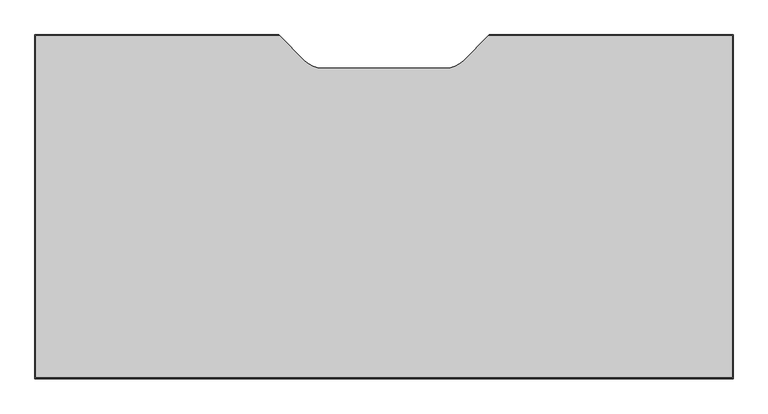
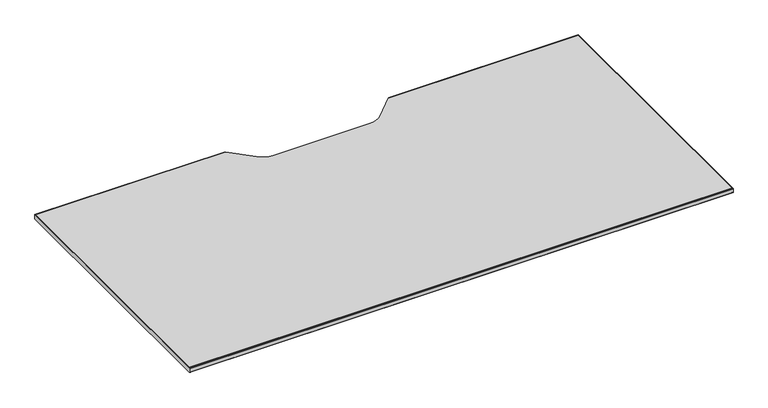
"""IFC4 building model written with IfcOpenShell, lengths in millimetres: furniture geometry, Steelcase Turnstone - Bivi - Table - Table Top : 30D x 60W."""

from ifc_helpers import new_model, si_unit, point, frame, frame_2d, origin, place, context, project, spatial, polyline, circle_curve, trimmed, segment, composite_curve, outline, extrude, source, transform, mapped, element, save
from ifc_brep_helpers import plane_surface, cylinder_surface, advanced_brep


def furniture_3df5f018(model_context):
    return source(origin(), model_context, "Body", "SolidModel", [
        advanced_brep(
        [(514.3499939, 727.0750061, 723.566625), (515.3499939, 726.0750061, 723.566625), (515.3499939, 726.0750061, 710.485625), (514.3499939, 727.0750061, 710.485625), (957.8500067, 726.0750061, 723.566625), (958.8500061, 727.0750061, 723.566625), (958.8500061, 727.0750061, 710.485625), (957.8500067, 726.0750061, 710.485625), (1473.2, 727.0750061, 723.566625), (1472.2, 726.0750061, 723.566625), (1472.2, 3.0000061, 723.566625), (1.0, 3.0000061, 723.566625), (1.0, 726.0750061, 723.566625), (0.0, 727.0750061, 723.566625), (0.0, 2.0320061, 723.566625), (1473.2, 2.0320061, 723.566625), (1472.2, 726.0750061, 710.485625), (1472.2, 3.0000061, 710.485625), (1473.2, 727.0750061, 710.485625), (1473.2, 2.0320061, 710.485625), (0.0, 2.0320061, 710.485625), (0.0, 727.0750061, 710.485625), (1.0, 726.0750061, 710.485625), (1.0, 3.0000061, 710.485625), (1473.2, 6.1e-06, 721.534625), (1473.2, 6.1e-06, 712.517625), (0.0, 6.1e-06, 712.517625), (0.0, 6.1e-06, 721.534625)],
        [
            (0, 1),
            (1, 2),
            (2, 3),
            (3, 0),
            (4, 5),
            (5, 6),
            (6, 7),
            (7, 4),
            (8, 5),
            (4, 9),
            (9, 10),
            (10, 11),
            (11, 12),
            (12, 1),
            (0, 13),
            (13, 14),
            (14, 15),
            (15, 8),
            (9, 16),
            (16, 17),
            (17, 10),
            (16, 7),
            (6, 18),
            (18, 19),
            (19, 20),
            (20, 21),
            (21, 3),
            (2, 22),
            (22, 23),
            (23, 17),
            (15, 24, circle_curve(frame((1473.2, 2.0320061, 721.534625), z_axis=(1.0, 0.0, 0.0), x_axis=(0.0, 1.0, 0.0)), 2.032)),
            (24, 25),
            (25, 19, circle_curve(frame((1473.2, 2.0320061, 712.517625), z_axis=(1.0, 0.0, 0.0), x_axis=(0.0, 1.0, 0.0)), 2.032)),
            (18, 8),
            (12, 22),
            (21, 13),
            (11, 23),
            (20, 26, circle_curve(frame((0.0, 2.0320061, 712.517625), z_axis=(-1.0, 0.0, 0.0), x_axis=(0.0, 1.0, 0.0)), 2.032)),
            (26, 27),
            (27, 14, circle_curve(frame((0.0, 2.0320061, 721.534625), z_axis=(-1.0, 0.0, 0.0), x_axis=(0.0, 1.0, 0.0)), 2.032)),
            (25, 26),
            (24, 27),
        ],
        [
            plane_surface(frame((514.3499939, 727.0750061, 724.4389999), z_axis=(0.7071067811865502, 0.7071067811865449, 0.0), x_axis=(0.0, 0.0, -1.0))),
            plane_surface(frame((904.6973766, 672.9223408, 724.4389999), z_axis=(-0.7071070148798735, 0.7071065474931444, 0.0), x_axis=(0.0, 0.0, -1.0))),
            plane_surface(frame((1473.2, 3.0000061, 723.566625), z_axis=(0.0, 0.0, 1.0), x_axis=(0.0, 1.0, 0.0))),
            plane_surface(frame((1472.2, 3.0000061, 723.566625), z_axis=(-1.0, 0.0, 0.0), x_axis=(0.0, 1.0, 0.0))),
            plane_surface(frame((1472.2, 3.0000061, 710.485625), z_axis=(0.0, 0.0, -1.0), x_axis=(0.0, 1.0, 0.0))),
            plane_surface(frame((1473.2, 3.0000061, 710.485625), z_axis=(1.0, 0.0, 0.0), x_axis=(0.0, 1.0, 0.0))),
            plane_surface(frame((1472.2, 726.0750061, 723.566625), z_axis=(0.0, -1.0, 0.0), x_axis=(-1.0, 0.0, 0.0))),
            plane_surface(frame((1473.2, 727.0750061, 710.485625), z_axis=(0.0, 1.0, 0.0), x_axis=(-1.0, 0.0, 0.0))),
            plane_surface(frame((1.0, 726.0750061, 723.566625), z_axis=(1.0, 0.0, 0.0), x_axis=(0.0, -1.0, 0.0))),
            plane_surface(frame((0.0, 727.0750061, 710.485625), z_axis=(-1.0, 0.0, 0.0), x_axis=(0.0, -1.0, 0.0))),
            cylinder_surface(frame((0.0, 2.0320061, 712.517625), z_axis=(-1.0, 0.0, 0.0), x_axis=(0.0, 1.0, 0.0)), 2.032),
            plane_surface(frame((0.0, 6.1e-06, 712.517625), z_axis=(0.0, -1.0, 0.0), x_axis=(1.0, 0.0, 0.0))),
            cylinder_surface(frame((0.0, 2.0320061, 721.534625), z_axis=(-1.0, 0.0, 0.0), x_axis=(0.0, 1.0, 0.0)), 2.032),
            plane_surface(frame((0.0, 3.0000061, 723.566625), z_axis=(0.0, 1.0, 0.0), x_axis=(1.0, 0.0, 0.0))),
        ],
        [
            (0, [[1, 2, 3, 4]]),
            (1, [[5, 6, 7, 8]]),
            (2, [[9, -5, 10, 11, 12, 13, 14, -1, 15, 16, 17, 18]]),
            (3, [[-11, 19, 20, 21]]),
            (4, [[-20, 22, -7, 23, 24, 25, 26, 27, -3, 28, 29, 30]]),
            (5, [[-18, 31, 32, 33, -24, 34]]),
            (6, [[-19, -10, -8, -22]]),
            (6, [[35, -28, -2, -14]]),
            (7, [[-34, -23, -6, -9]]),
            (7, [[36, -15, -4, -27]]),
            (8, [[-13, 37, -29, -35]]),
            (9, [[-16, -36, -26, 38, 39, 40]]),
            (10, [[-38, -25, -33, 41]]),
            (11, [[-39, -41, -32, 42]]),
            (12, [[-40, -42, -31, -17]]),
            (13, [[-30, -37, -12, -21]]),
        ],
    ),
        extrude(outline(composite_curve([segment(polyline([(1472.2, 726.0750061), (1472.2, 3.0000061), (1.0, 3.0000061), (1.0, 726.0750061), (515.3499939, 726.0750061), (568.512149, 672.912851)]), True, "CONTINUOUS"), segment(trimmed(circle_curve(frame_2d((606.3859497, 710.7866517)), 53.5616426), [point((568.512149, 672.912851))], [point((606.3859497, 657.2250091))], True, "CARTESIAN"), True, "CONTINUOUS"), segment(polyline([(606.3859497, 657.2250091), (866.8006832, 657.2250091)]), True, "CONTINUOUS"), segment(trimmed(circle_curve(frame_2d((866.8006832, 710.8190091)), 53.594), [point((866.8006832, 657.2250091))], [point((904.6973766, 672.9223408))], True, "CARTESIAN"), True, "CONTINUOUS"), segment(polyline([(904.6973766, 672.9223408), (957.8500067, 726.0750061), (1472.2, 726.0750061)]), True, "CONTINUOUS")], self_intersect=False)), frame((0.0, 0.0, 710.485625), z_axis=(0.0, 0.0, 1.0), x_axis=(1.0, 0.0, 0.0)), (0.0, 0.0, 1.0), 13.081),
    ])


if __name__ == "__main__":
    model = new_model("IFC4")
    model_context = context("Model", 3, world=origin())
    ifc_project = project(units=[si_unit("LENGTHUNIT", "METRE", prefix="MILLI")], contexts=[model_context])
    site = spatial("IfcSite", under=ifc_project)
    building = spatial("IfcBuilding", under=site)
    placement = place(None, origin())
    furniture_shape = furniture_3df5f018(model_context)
    element("IfcFurniture", 1, ObjectType="Steelcase Turnstone - Bivi - Table - Table Top : 30D x 60W", at=placement, inside=building, context=model_context, shape_type="MappedRepresentation", body=[
        mapped(furniture_shape, transform((0.0, 0.0, 0.0), x_axis=(1.0, 0.0, 0.0), y_axis=(0.0, 1.0, 0.0), z_axis=(0.0, 0.0, 1.0))),
    ])
    save(model, "model.ifc")
